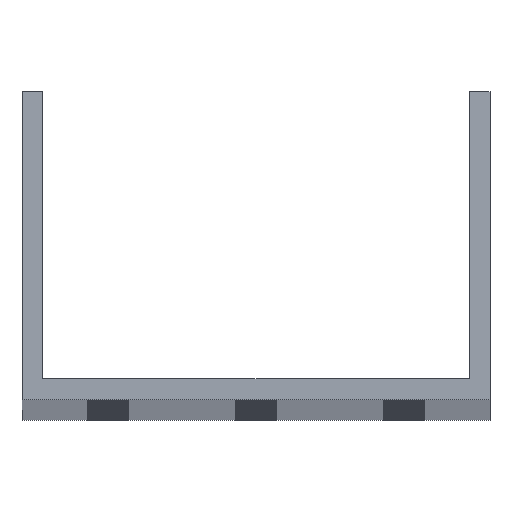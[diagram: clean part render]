
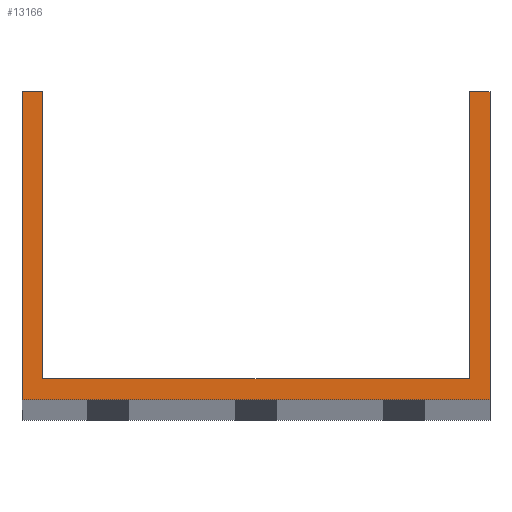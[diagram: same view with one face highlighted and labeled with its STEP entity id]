
A CAD part, top view. The second image highlights one B-rep face of the part: STEP entity #13166.
In plain terms, the highlighted planar face has unit normal (0, 0, 1).
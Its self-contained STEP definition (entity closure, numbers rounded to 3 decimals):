
#285 = ORIENTED_EDGE ( 'NONE', *, *, #28312, .F. ) ;
#444 = EDGE_CURVE ( 'NONE', #30547, #14222, #10228, .T. ) ;
#608 = ORIENTED_EDGE ( 'NONE', *, *, #12118, .T. ) ;
#1091 = CARTESIAN_POINT ( 'NONE',  ( -39.5, 52., 1000. ) ) ;
#1284 = LINE ( 'NONE', #10056, #4229 ) ;
#1892 = CARTESIAN_POINT ( 'NONE',  ( 39.5, 52., 1000. ) ) ;
#2153 = VERTEX_POINT ( 'NONE', #26700 ) ;
#2494 = EDGE_CURVE ( 'NONE', #28544, #2153, #31816, .T. ) ;
#2579 = VECTOR ( 'NONE', #14972, 1000. ) ;
#3245 = DIRECTION ( 'NONE',  ( 0., -1., 0. ) ) ;
#4229 = VECTOR ( 'NONE', #15214, 1000. ) ;
#4872 = EDGE_CURVE ( 'NONE', #27884, #24247, #9070, .T. ) ;
#5238 = AXIS2_PLACEMENT_3D ( 'NONE', #15611, #26103, #5965 ) ;
#5965 = DIRECTION ( 'NONE',  ( 1., 0., 0. ) ) ;
#6388 = VERTEX_POINT ( 'NONE', #13013 ) ;
#6685 = DIRECTION ( 'NONE',  ( 1., 0., 0. ) ) ;
#6779 = CARTESIAN_POINT ( 'NONE',  ( -36., 3.5, 1000. ) ) ;
#7610 = LINE ( 'NONE', #7765, #30877 ) ;
#7765 = CARTESIAN_POINT ( 'NONE',  ( 36., 52., 1000. ) ) ;
#8103 = VECTOR ( 'NONE', #6685, 1000. ) ;
#8198 = EDGE_LOOP ( 'NONE', ( #27957, #11300, #29482, #608, #27952, #28369, #285, #20577 ) ) ;
#9070 = LINE ( 'NONE', #1892, #9801 ) ;
#9801 = VECTOR ( 'NONE', #20023, 1000. ) ;
#10056 = CARTESIAN_POINT ( 'NONE',  ( -39.5, 52., 1000. ) ) ;
#10228 = LINE ( 'NONE', #20891, #29887 ) ;
#10447 = FACE_OUTER_BOUND ( 'NONE', #8198, .T. ) ;
#11060 = VECTOR ( 'NONE', #21454, 1000. ) ;
#11300 = ORIENTED_EDGE ( 'NONE', *, *, #13829, .T. ) ;
#11395 = CARTESIAN_POINT ( 'NONE',  ( -39.5, 0., 1000. ) ) ;
#12118 = EDGE_CURVE ( 'NONE', #14222, #27884, #24285, .T. ) ;
#13013 = CARTESIAN_POINT ( 'NONE',  ( 36., 52., 1000. ) ) ;
#13065 = EDGE_CURVE ( 'NONE', #24247, #6388, #23105, .T. ) ;
#13166 = ADVANCED_FACE ( 'NONE', ( #10447 ), #20605, .T. ) ;
#13829 = EDGE_CURVE ( 'NONE', #19847, #30547, #1284, .T. ) ;
#14222 = VERTEX_POINT ( 'NONE', #11395 ) ;
#14662 = CARTESIAN_POINT ( 'NONE',  ( -36., 52., 1000. ) ) ;
#14972 = DIRECTION ( 'NONE',  ( -1., 0., 0. ) ) ;
#15138 = CARTESIAN_POINT ( 'NONE',  ( -36., 52., 1000. ) ) ;
#15214 = DIRECTION ( 'NONE',  ( -1., 0., 0. ) ) ;
#15292 = CARTESIAN_POINT ( 'NONE',  ( 39.5, 0., 1000. ) ) ;
#15611 = CARTESIAN_POINT ( 'NONE',  ( 0., 0., 1000. ) ) ;
#17766 = DIRECTION ( 'NONE',  ( 0., 1., 0. ) ) ;
#19197 = VECTOR ( 'NONE', #24816, 1000. ) ;
#19847 = VERTEX_POINT ( 'NONE', #15138 ) ;
#20023 = DIRECTION ( 'NONE',  ( 0., 1., 0. ) ) ;
#20577 = ORIENTED_EDGE ( 'NONE', *, *, #2494, .F. ) ;
#20605 = PLANE ( 'NONE',  #5238 ) ;
#20891 = CARTESIAN_POINT ( 'NONE',  ( -39.5, 52., 1000. ) ) ;
#21454 = DIRECTION ( 'NONE',  ( 1., 0., 0. ) ) ;
#23105 = LINE ( 'NONE', #25123, #2579 ) ;
#24119 = CARTESIAN_POINT ( 'NONE',  ( -39.5, 0., 1000. ) ) ;
#24247 = VERTEX_POINT ( 'NONE', #30856 ) ;
#24285 = LINE ( 'NONE', #24119, #11060 ) ;
#24816 = DIRECTION ( 'NONE',  ( 0., -1., 0. ) ) ;
#25123 = CARTESIAN_POINT ( 'NONE',  ( -39.5, 52., 1000. ) ) ;
#26103 = DIRECTION ( 'NONE',  ( 0., 0., 1. ) ) ;
#26700 = CARTESIAN_POINT ( 'NONE',  ( 36., 3.5, 1000. ) ) ;
#27467 = LINE ( 'NONE', #14662, #19197 ) ;
#27822 = EDGE_CURVE ( 'NONE', #19847, #28544, #27467, .T. ) ;
#27884 = VERTEX_POINT ( 'NONE', #15292 ) ;
#27952 = ORIENTED_EDGE ( 'NONE', *, *, #4872, .T. ) ;
#27957 = ORIENTED_EDGE ( 'NONE', *, *, #27822, .F. ) ;
#28312 = EDGE_CURVE ( 'NONE', #2153, #6388, #7610, .T. ) ;
#28369 = ORIENTED_EDGE ( 'NONE', *, *, #13065, .T. ) ;
#28544 = VERTEX_POINT ( 'NONE', #6779 ) ;
#29482 = ORIENTED_EDGE ( 'NONE', *, *, #444, .T. ) ;
#29641 = CARTESIAN_POINT ( 'NONE',  ( -39.5, 3.5, 1000. ) ) ;
#29887 = VECTOR ( 'NONE', #3245, 1000. ) ;
#30547 = VERTEX_POINT ( 'NONE', #1091 ) ;
#30856 = CARTESIAN_POINT ( 'NONE',  ( 39.5, 52., 1000. ) ) ;
#30877 = VECTOR ( 'NONE', #17766, 1000. ) ;
#31816 = LINE ( 'NONE', #29641, #8103 ) ;
